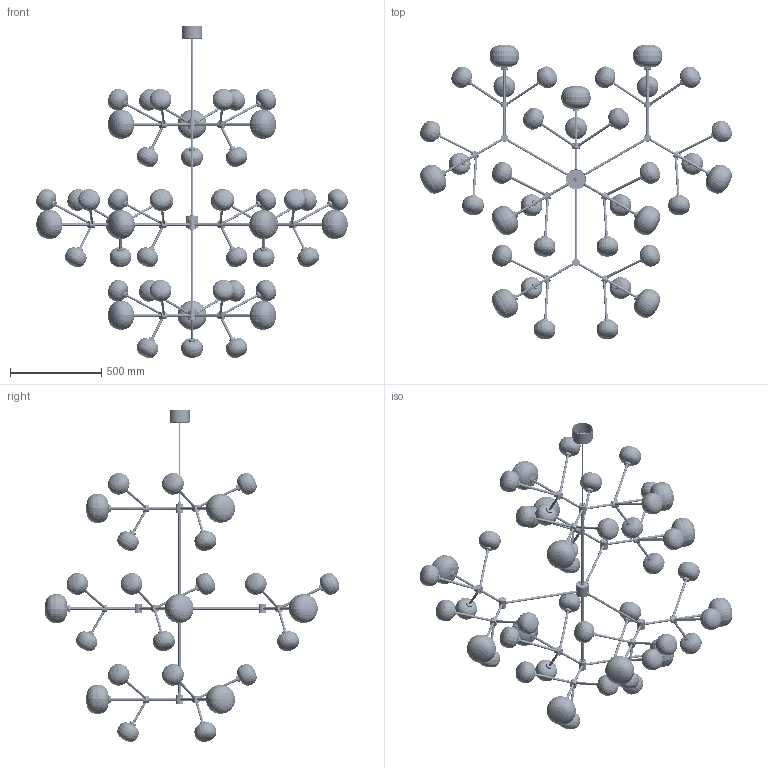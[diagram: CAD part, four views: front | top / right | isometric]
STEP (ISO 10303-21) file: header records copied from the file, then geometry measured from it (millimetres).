
FILE_DESCRIPTION(/* description */ (''),/* implementation_level */ '2;1');
FILE_NAME(/* name */ 'NYF0W1~Q',/* time_stamp */ '2021-10-15T10:15:29+02:00',/* author */ (''),/* organization */ (''),/* preprocessor_version */ 'ST-DEVELOPER v15',/* originating_system */ '',/* authorisation */ '');
FILE_SCHEMA (('AUTOMOTIVE_DESIGN'));
Products named in the file (1): Document
Bounding box: 1707.14 x 1614.14 x 1818.39 mm (x, y, z)
Volume: 6052604.9 mm3; surface area: 9218025.6 mm2
Topology: 176 solids, 275 shells, 2524 faces, 6952 edges, 4278 vertices
Faces by surface type: bspline 2524
Entity records: 432029 total; most frequent: CARTESIAN_POINT 352742, B_SPLINE_CURVE_WITH_KNOTS 13320, ORIENTED_EDGE 12804, PCURVE 12804, DEFINITIONAL_REPRESENTATION 12804, SURFACE_CURVE 6597, EDGE_CURVE 6597, VERTEX_POINT 4251
